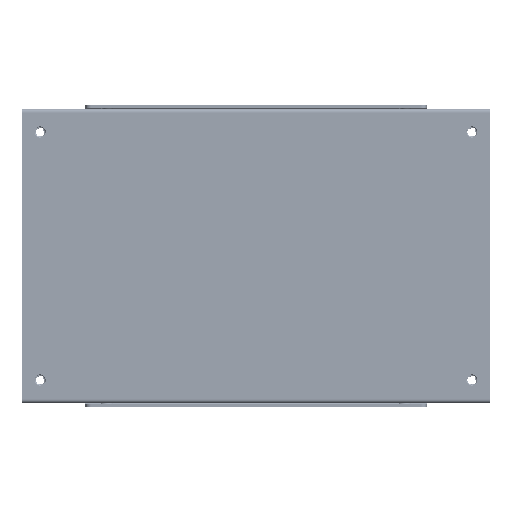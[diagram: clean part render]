
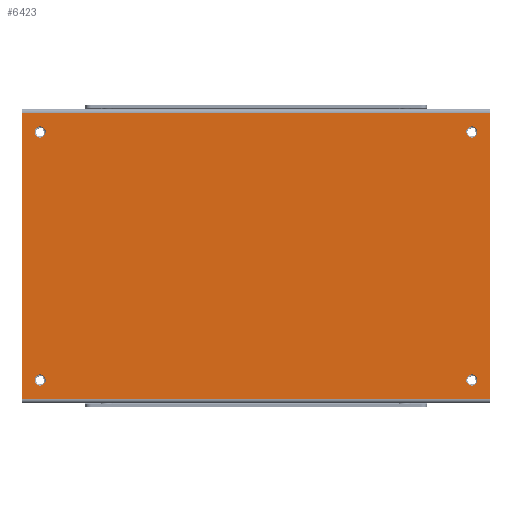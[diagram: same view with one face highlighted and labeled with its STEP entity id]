
A CAD part, front view. The second image highlights one B-rep face of the part: STEP entity #6423.
In plain terms, the highlighted planar face has unit normal (0, -1, 0).
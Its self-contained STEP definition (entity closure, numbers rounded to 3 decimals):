
#580 = VERTEX_POINT ( 'NONE', #146932 ) ;
#1126 = VERTEX_POINT ( 'NONE', #141406 ) ;
#6423 = ADVANCED_FACE ( 'NONE', ( #19644, #120955, #139545, #31457, #91462 ), #151367, .F. ) ;
#7712 = EDGE_CURVE ( 'NONE', #84694, #1126, #21978, .T. ) ;
#8159 = EDGE_LOOP ( 'NONE', ( #122693, #162078 ) ) ;
#9030 = EDGE_CURVE ( 'NONE', #140454, #167358, #138343, .T. ) ;
#9563 = AXIS2_PLACEMENT_3D ( 'NONE', #69428, #173631, #110634 ) ;
#11109 = ORIENTED_EDGE ( 'NONE', *, *, #43877, .T. ) ;
#11608 = EDGE_CURVE ( 'NONE', #58734, #168109, #83362, .T. ) ;
#11997 = ORIENTED_EDGE ( 'NONE', *, *, #58623, .T. ) ;
#12561 = ORIENTED_EDGE ( 'NONE', *, *, #181834, .T. ) ;
#17377 = VERTEX_POINT ( 'NONE', #91393 ) ;
#19644 = FACE_BOUND ( 'NONE', #8159, .T. ) ;
#21619 = ORIENTED_EDGE ( 'NONE', *, *, #65975, .T. ) ;
#21978 = LINE ( 'NONE', #125174, #78827 ) ;
#26177 = CARTESIAN_POINT ( 'NONE',  ( 58.409, -16.641, 239.004 ) ) ;
#28115 = VERTEX_POINT ( 'NONE', #130524 ) ;
#31046 = AXIS2_PLACEMENT_3D ( 'NONE', #180067, #176167, #88610 ) ;
#31457 = FACE_BOUND ( 'NONE', #56355, .T. ) ;
#31467 = VECTOR ( 'NONE', #181917, 1000. ) ;
#32185 = CARTESIAN_POINT ( 'NONE',  ( 63.419, -16.641, 244.364 ) ) ;
#32257 = AXIS2_PLACEMENT_3D ( 'NONE', #181274, #165494, #46521 ) ;
#33164 = ORIENTED_EDGE ( 'NONE', *, *, #131732, .F. ) ;
#34979 = ORIENTED_EDGE ( 'NONE', *, *, #138538, .T. ) ;
#39322 = CARTESIAN_POINT ( 'NONE',  ( -59.629, -16.641, 238.229 ) ) ;
#41868 = DIRECTION ( 'NONE',  ( -0.866, 0., 0.5 ) ) ;
#43527 = EDGE_LOOP ( 'NONE', ( #21619, #126588 ) ) ;
#43877 = EDGE_CURVE ( 'NONE', #28115, #151613, #109409, .T. ) ;
#46521 = DIRECTION ( 'NONE',  ( -0.866, 0., 0.5 ) ) ;
#56355 = EDGE_LOOP ( 'NONE', ( #11997, #145014 ) ) ;
#58623 = EDGE_CURVE ( 'NONE', #131498, #179097, #174076, .T. ) ;
#58734 = VERTEX_POINT ( 'NONE', #153599 ) ;
#59634 = CARTESIAN_POINT ( 'NONE',  ( -65.981, -16.641, 245.364 ) ) ;
#59826 = DIRECTION ( 'NONE',  ( -0.866, 0., 0.5 ) ) ;
#60354 = DIRECTION ( 'NONE',  ( 0., 1., 0. ) ) ;
#61885 = CARTESIAN_POINT ( 'NONE',  ( 63.419, -16.641, 245.364 ) ) ;
#61918 = AXIS2_PLACEMENT_3D ( 'NONE', #121274, #60354, #106481 ) ;
#65975 = EDGE_CURVE ( 'NONE', #167358, #140454, #159985, .T. ) ;
#67358 = DIRECTION ( 'NONE',  ( -0.866, 0., 0.5 ) ) ;
#69428 = CARTESIAN_POINT ( 'NONE',  ( 58.409, -16.641, 170.424 ) ) ;
#70790 = AXIS2_PLACEMENT_3D ( 'NONE', #26177, #83217, #41868 ) ;
#72708 = VECTOR ( 'NONE', #133363, 1000. ) ;
#74747 = CARTESIAN_POINT ( 'NONE',  ( 59.751, -16.641, 169.649 ) ) ;
#75433 = CARTESIAN_POINT ( 'NONE',  ( -65.981, -16.641, 165.064 ) ) ;
#76695 = LINE ( 'NONE', #61885, #31467 ) ;
#78827 = VECTOR ( 'NONE', #97618, 1000. ) ;
#79839 = CARTESIAN_POINT ( 'NONE',  ( 57.067, -16.641, 239.779 ) ) ;
#81409 = EDGE_LOOP ( 'NONE', ( #33164, #34979, #91961, #192910 ) ) ;
#83217 = DIRECTION ( 'NONE',  ( 0., 1., 0. ) ) ;
#83362 = CIRCLE ( 'NONE', #70790, 1.55 ) ;
#83997 = CARTESIAN_POINT ( 'NONE',  ( -60.971, -16.641, 170.424 ) ) ;
#84694 = VERTEX_POINT ( 'NONE', #32185 ) ;
#86075 = EDGE_CURVE ( 'NONE', #168109, #58734, #194468, .T. ) ;
#88344 = CARTESIAN_POINT ( 'NONE',  ( 58.409, -16.641, 170.424 ) ) ;
#88610 = DIRECTION ( 'NONE',  ( -0.866, 0., 0.5 ) ) ;
#91393 = CARTESIAN_POINT ( 'NONE',  ( -65.981, -16.641, 165.064 ) ) ;
#91462 = FACE_OUTER_BOUND ( 'NONE', #81409, .T. ) ;
#91961 = ORIENTED_EDGE ( 'NONE', *, *, #163620, .T. ) ;
#97618 = DIRECTION ( 'NONE',  ( -1., 0., 0. ) ) ;
#98684 = DIRECTION ( 'NONE',  ( 0., 1., 0. ) ) ;
#99125 = DIRECTION ( 'NONE',  ( -0.866, 0., 0.5 ) ) ;
#101895 = LINE ( 'NONE', #59634, #72708 ) ;
#103314 = CIRCLE ( 'NONE', #147251, 1.55 ) ;
#103873 = LINE ( 'NONE', #75433, #162670 ) ;
#104329 = AXIS2_PLACEMENT_3D ( 'NONE', #113910, #112898, #99125 ) ;
#106481 = DIRECTION ( 'NONE',  ( -0.866, 0., 0.5 ) ) ;
#109409 = CIRCLE ( 'NONE', #31046, 1.55 ) ;
#109548 = AXIS2_PLACEMENT_3D ( 'NONE', #134513, #194577, #59826 ) ;
#110634 = DIRECTION ( 'NONE',  ( -0.866, 0., 0.5 ) ) ;
#112751 = AXIS2_PLACEMENT_3D ( 'NONE', #88344, #192592, #120718 ) ;
#112898 = DIRECTION ( 'NONE',  ( 0., 1., 0. ) ) ;
#113910 = CARTESIAN_POINT ( 'NONE',  ( 61.109, -16.641, 237.445 ) ) ;
#120718 = DIRECTION ( 'NONE',  ( -0.866, 0., 0.5 ) ) ;
#120955 = FACE_BOUND ( 'NONE', #43527, .T. ) ;
#121274 = CARTESIAN_POINT ( 'NONE',  ( -60.971, -16.641, 239.004 ) ) ;
#122693 = ORIENTED_EDGE ( 'NONE', *, *, #11608, .T. ) ;
#125174 = CARTESIAN_POINT ( 'NONE',  ( -65.981, -16.641, 244.364 ) ) ;
#126588 = ORIENTED_EDGE ( 'NONE', *, *, #9030, .T. ) ;
#127382 = CARTESIAN_POINT ( 'NONE',  ( -62.313, -16.641, 239.779 ) ) ;
#130524 = CARTESIAN_POINT ( 'NONE',  ( -62.313, -16.641, 171.199 ) ) ;
#131498 = VERTEX_POINT ( 'NONE', #39322 ) ;
#131732 = EDGE_CURVE ( 'NONE', #17377, #1126, #101895, .T. ) ;
#133363 = DIRECTION ( 'NONE',  ( 0., 0., 1. ) ) ;
#134365 = DIRECTION ( 'NONE',  ( 1., 0., 0. ) ) ;
#134513 = CARTESIAN_POINT ( 'NONE',  ( 58.409, -16.641, 239.004 ) ) ;
#136724 = EDGE_CURVE ( 'NONE', #179097, #131498, #178204, .T. ) ;
#138343 = CIRCLE ( 'NONE', #9563, 1.55 ) ;
#138538 = EDGE_CURVE ( 'NONE', #17377, #580, #103873, .T. ) ;
#139545 = FACE_BOUND ( 'NONE', #169415, .T. ) ;
#140454 = VERTEX_POINT ( 'NONE', #168369 ) ;
#141406 = CARTESIAN_POINT ( 'NONE',  ( -65.981, -16.641, 244.364 ) ) ;
#145014 = ORIENTED_EDGE ( 'NONE', *, *, #136724, .T. ) ;
#146932 = CARTESIAN_POINT ( 'NONE',  ( 63.419, -16.641, 165.064 ) ) ;
#147251 = AXIS2_PLACEMENT_3D ( 'NONE', #83997, #98684, #67358 ) ;
#151367 = PLANE ( 'NONE',  #104329 ) ;
#151613 = VERTEX_POINT ( 'NONE', #194705 ) ;
#153599 = CARTESIAN_POINT ( 'NONE',  ( 59.751, -16.641, 238.229 ) ) ;
#159985 = CIRCLE ( 'NONE', #112751, 1.55 ) ;
#162078 = ORIENTED_EDGE ( 'NONE', *, *, #86075, .T. ) ;
#162670 = VECTOR ( 'NONE', #134365, 1000. ) ;
#163620 = EDGE_CURVE ( 'NONE', #580, #84694, #76695, .T. ) ;
#165494 = DIRECTION ( 'NONE',  ( 0., 1., 0. ) ) ;
#167358 = VERTEX_POINT ( 'NONE', #74747 ) ;
#168109 = VERTEX_POINT ( 'NONE', #79839 ) ;
#168369 = CARTESIAN_POINT ( 'NONE',  ( 57.067, -16.641, 171.199 ) ) ;
#169415 = EDGE_LOOP ( 'NONE', ( #12561, #11109 ) ) ;
#173631 = DIRECTION ( 'NONE',  ( 0., 1., 0. ) ) ;
#174076 = CIRCLE ( 'NONE', #32257, 1.55 ) ;
#176167 = DIRECTION ( 'NONE',  ( 0., 1., 0. ) ) ;
#178204 = CIRCLE ( 'NONE', #61918, 1.55 ) ;
#179097 = VERTEX_POINT ( 'NONE', #127382 ) ;
#180067 = CARTESIAN_POINT ( 'NONE',  ( -60.971, -16.641, 170.424 ) ) ;
#181274 = CARTESIAN_POINT ( 'NONE',  ( -60.971, -16.641, 239.004 ) ) ;
#181834 = EDGE_CURVE ( 'NONE', #151613, #28115, #103314, .T. ) ;
#181917 = DIRECTION ( 'NONE',  ( 0., 0., 1. ) ) ;
#192592 = DIRECTION ( 'NONE',  ( 0., 1., 0. ) ) ;
#192910 = ORIENTED_EDGE ( 'NONE', *, *, #7712, .T. ) ;
#194468 = CIRCLE ( 'NONE', #109548, 1.55 ) ;
#194577 = DIRECTION ( 'NONE',  ( 0., 1., 0. ) ) ;
#194705 = CARTESIAN_POINT ( 'NONE',  ( -59.629, -16.641, 169.649 ) ) ;
